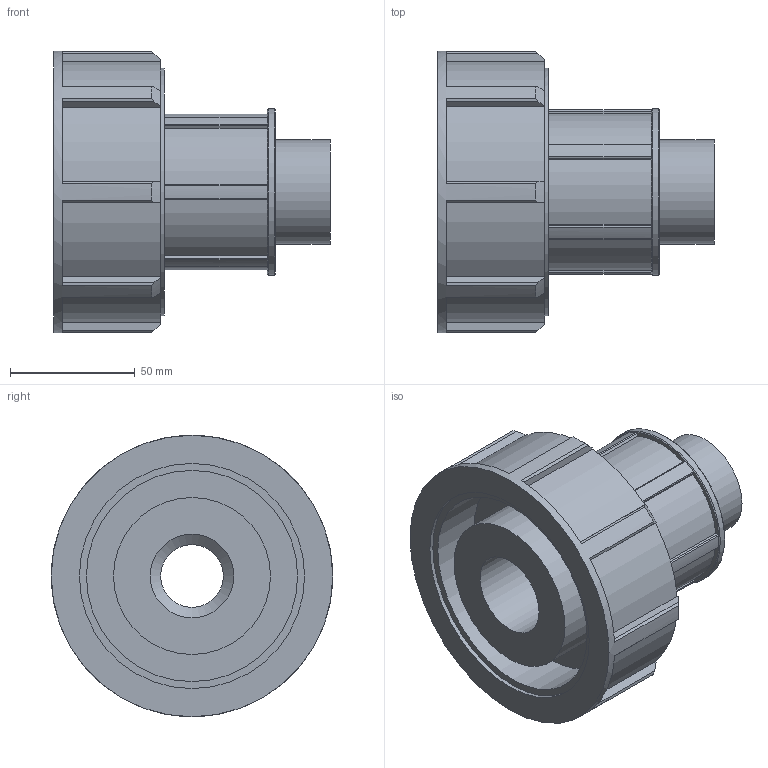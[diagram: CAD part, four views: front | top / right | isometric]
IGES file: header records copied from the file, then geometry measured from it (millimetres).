
Global section: file name: 072500063013_182500063013_0725060630130A.ipt; native system: Autodesk Inventor 2015; preprocessor: unknown; author: KIM; date: 20170608.042200; units: millimetre
Bounding box: 111 x 113 x 113 mm (x, y, z)
Volume: 405484 mm3; surface area: 77988.8 mm2
Topology: 1 solids, 1 shells, 115 faces, 322 edges, 217 vertices
Faces by surface type: plane 74, cylinder 25, cone 10, revolution 6
Full cylindrical faces by diameter (mm): 41.91 x1, 63 x1, 67.056 x1, 99.44 x1, 113 x1
